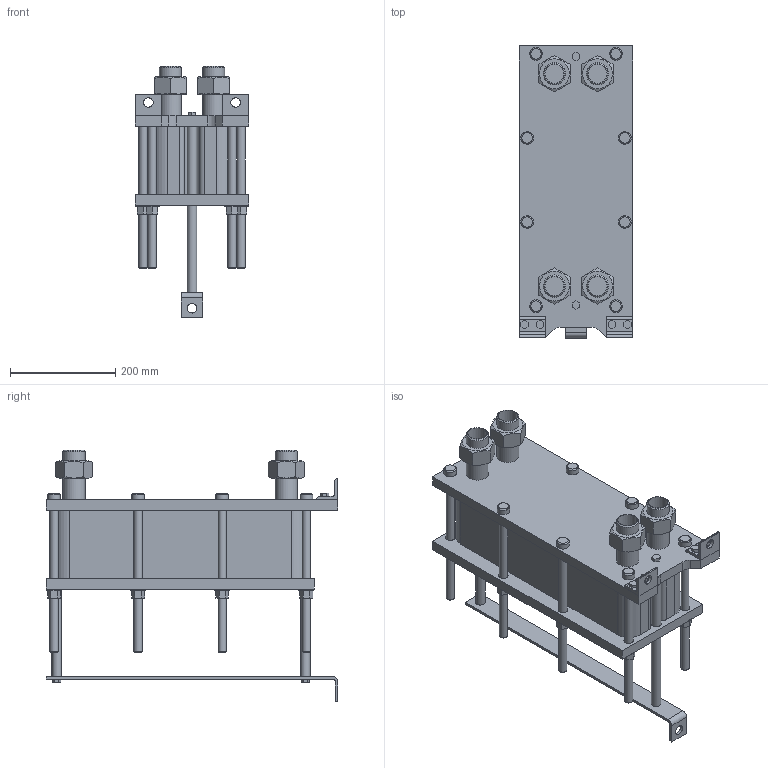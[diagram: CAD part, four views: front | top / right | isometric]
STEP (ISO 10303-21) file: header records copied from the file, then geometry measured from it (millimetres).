
FILE_DESCRIPTION(/* description */ (''),/* implementation_level */ '2;1');
FILE_NAME(/* name */ 'C:\Users\zhuro\Desktop\ENCO\TO\ЭН-004\ЭН-0,5-004-42-1.stp',/* time_stamp */ '2022-06-06T10:46:26+03:00',/* author */ ('zhuro'),/* organization */ (''),/* preprocessor_version */ 'ST-DEVELOPER v18.1',/* originating_system */ 'Autodesk Inventor 2022',/* authorisation */ '');
FILE_SCHEMA (('AUTOMOTIVE_DESIGN { 1 0 10303 214 3 1 1 }'));
Length unit declared in the file: millimetre
Products named in the file (1): ЭН-0,5-004-42-1
Bounding box: 216 x 555 x 478.6 mm (x, y, z)
Volume: 15315415.9 mm3; surface area: 1240921.6 mm2
Topology: 40 solids, 40 shells, 403 faces, 865 edges, 574 vertices
Faces by surface type: plane 272, cylinder 103, cone 28
Full cylindrical faces by diameter (mm): 10 x4, 16 x16, 18 x29, 20 x2, 24 x8, 28 x8, 36.3 x5, 42.3 x9
Entity records: 11137 total; most frequent: CARTESIAN_POINT 1939, DIRECTION 1879, ORIENTED_EDGE 1730, EDGE_CURVE 865, AXIS2_PLACEMENT_3D 658, VERTEX_POINT 574, LINE 563, VECTOR 563
